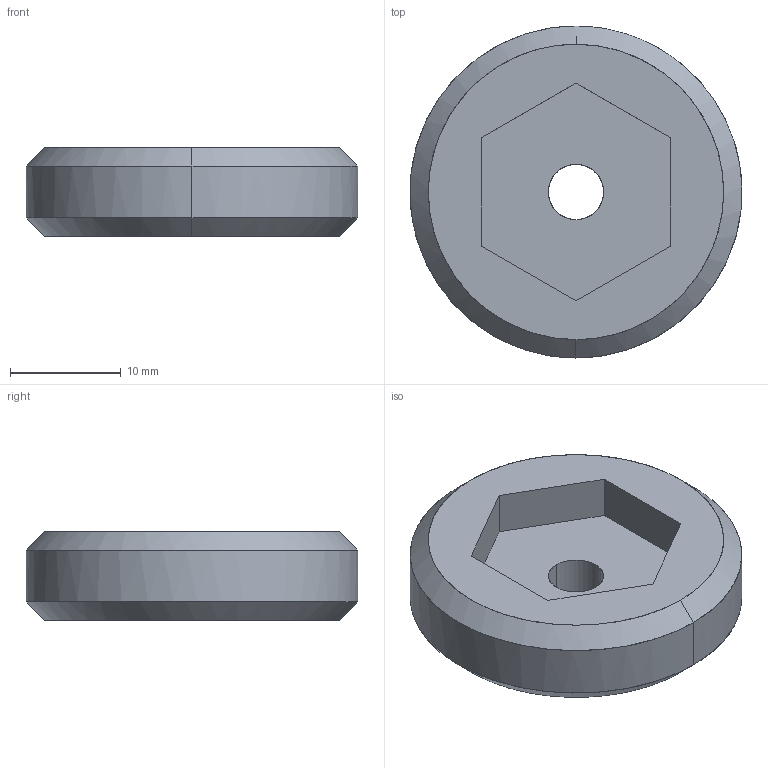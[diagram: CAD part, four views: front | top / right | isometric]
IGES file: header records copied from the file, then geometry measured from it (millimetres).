
Global section: file name: E:\UnigraphicsGraphicData\MISUMI_PRESS-PARTS\IGES\3d_mswsh30-8_00477_r00.igs; native system: NX V5.0; preprocessor: UGS NX IGES V5.0; author: MISUMI; date: 20110105.161527; units: millimetre
Bounding box: 29.98 x 30 x 8 mm (x, y, z)
Surface area: 2237.6 mm2 (no closed solid volume)
Topology: 0 solids, 0 shells, 17 faces, 116 edges, 116 vertices
Faces by surface type: bspline 17
